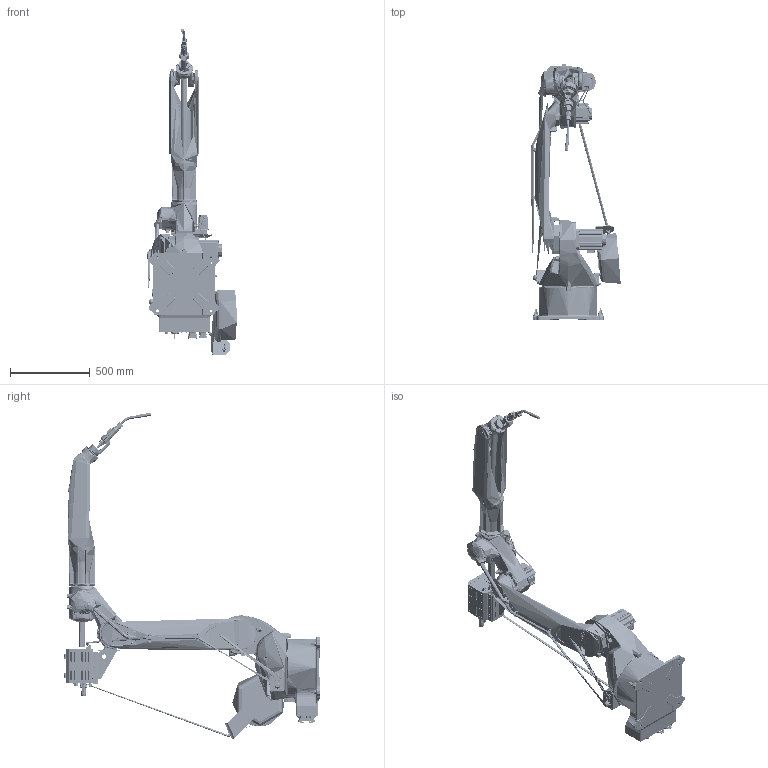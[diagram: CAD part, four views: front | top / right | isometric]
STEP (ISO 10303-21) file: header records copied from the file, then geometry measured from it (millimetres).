
FILE_DESCRIPTION (( 'STEP AP203' ), '1' );
FILE_NAME ('CRP-RH21B-06W.STEP', '2022-03-28T05:27:25', ( 'Microsoft' ), ( 'Microsoft' ), 'SwSTEP 2.0', 'SolidWorks 2016', '' );
FILE_SCHEMA (( 'CONFIG_CONTROL_DESIGN' ));
Products named in the file (13): CR14B0603 藺傷楊擘2; CRP-RH21B-06W; CR14B0600 勂窒郪璃2; CR18B0100 菁釱郪璃; CR14B0803 爾Л; CR18B0300 湮旋郪璃; CR18B0400 紵窒郪璃; CR14B0801 爾佪攫郪璃; CR14B0802 冞佪儂; RH21B0402 晊酗裝; RH21B0700 奪盄婦; CR18B0200 殈窒郪璃; CR18B0500 苤旋郪璃
Assembly tree (12 placements, depth 2):
  CRP-RH21B-06W
    CR18B0100 菁釱郪璃
    CR18B0200 殈窒郪璃
    CR18B0300 湮旋郪璃
    CR18B0400 紵窒郪璃
    CR18B0500 苤旋郪璃
    CR14B0600 勂窒郪璃2
    CR14B0603 藺傷楊擘2
    CR14B0801 爾佪攫郪璃
    CR14B0802 冞佪儂
    CR14B0803 爾Л
    RH21B0402 晊酗裝
    RH21B0700 奪盄婦
Bounding box: 559.89 x 1597.3 x 2040.03 mm (x, y, z)
Topology: 36 solids, 597 shells, 21765 faces, 57519 edges, 36749 vertices
Faces by surface type: plane 8384, cylinder 6685, bspline 3502, cone 1965, torus 1006, sphere 223
Full cylindrical faces by diameter (mm): 2 x1
Entity records: 1233795 total; most frequent: CARTESIAN_POINT 721583, ORIENTED_EDGE 108367, DIRECTION 100324, EDGE_CURVE 56736, AXIS2_PLACEMENT_3D 37306, VERTEX_POINT 36747, VECTOR 25712, LINE 25712
